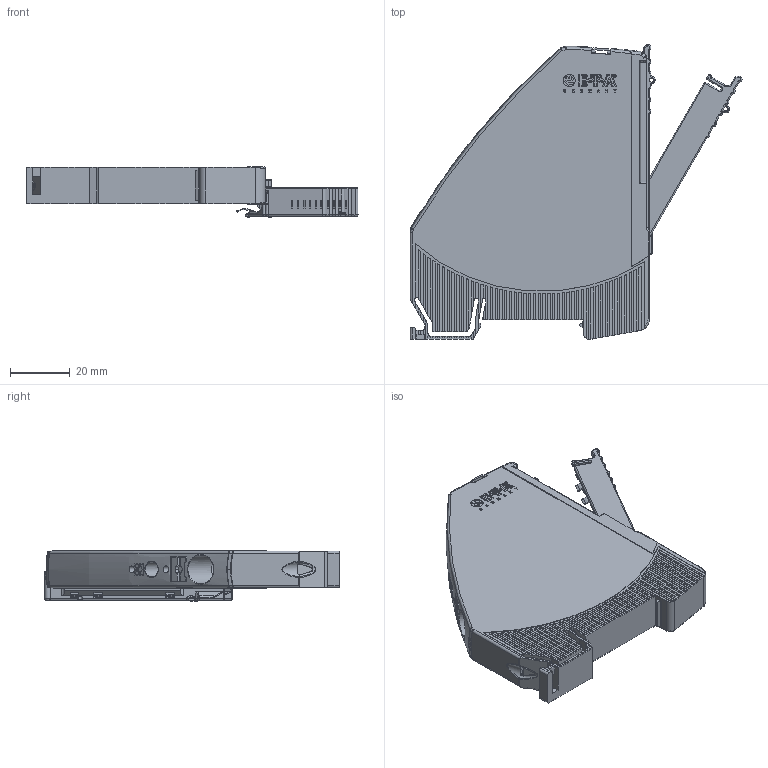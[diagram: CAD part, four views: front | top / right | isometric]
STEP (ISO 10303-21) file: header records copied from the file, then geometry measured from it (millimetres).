
FILE_DESCRIPTION((''),'2;1');
FILE_NAME('T-EM12-T00-200-LINE_ASM','2017-06-08T',('hroth'),(''),'PRO/ENGINEER BY PARAMETRIC TECHNOLOGY CORPORATION, 2014200','PRO/ENGINEER BY PARAMETRIC TECHNOLOGY CORPORATION, 2014200','');
FILE_SCHEMA(('AUTOMOTIVE_DESIGN { 1 0 10303 214 1 1 1 1 }'));
Products named in the file (3): T-EM12-T00-200-LINE_GEH; T-EM12-TXX-200_HEB-SI3; T-EM12-T00-200-LINE_ASM
Assembly tree (3 placements, depth 2):
  T-EM12-T00-200-LINE_ASM
    T-EM12-T00-200-LINE_GEH
    T-EM12-TXX-200_HEB-SI3  x2
Bounding box: 110.9 x 98.5 x 16.9 mm (x, y, z)
Volume: 72203.2 mm3; surface area: 26789.1 mm2
Topology: 3 solids, 3 shells, 2034 faces, 5587 edges, 3603 vertices
Faces by surface type: plane 1271, cylinder 500, torus 101, bspline 81, extrusion 41, cone 24, sphere 16
Entity records: 64242 total; most frequent: CARTESIAN_POINT 16766, ORIENTED_EDGE 9308, DIRECTION 8324, EDGE_CURVE 4654, VECTOR 3416, LINE 3375, VERTEX_POINT 3032, AXIS2_PLACEMENT_3D 2454
